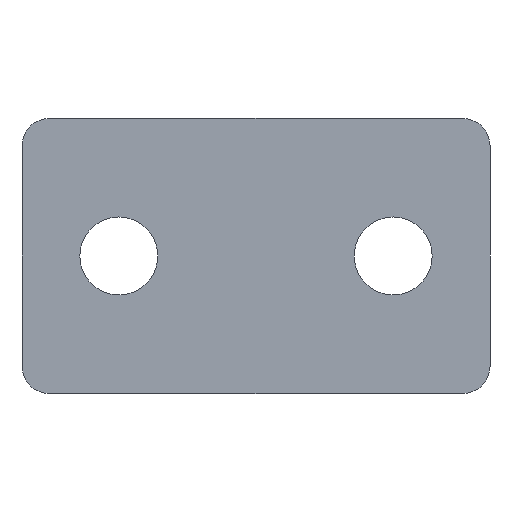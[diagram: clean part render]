
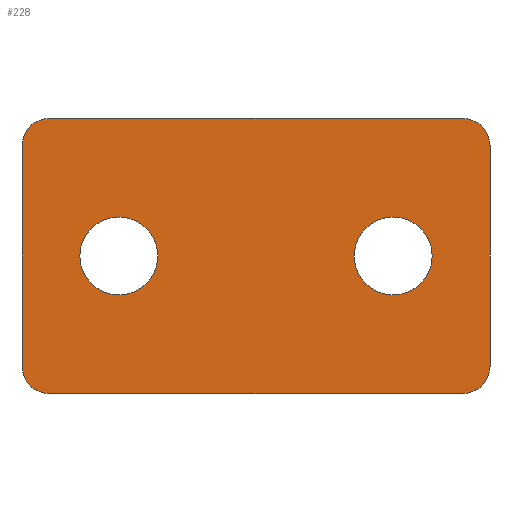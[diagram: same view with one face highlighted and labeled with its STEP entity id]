
A CAD part, front view. The second image highlights one B-rep face of the part: STEP entity #228.
In plain terms, the highlighted planar face has unit normal (0, -1, 0).
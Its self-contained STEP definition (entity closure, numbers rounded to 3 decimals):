
#17=FACE_BOUND('',#51,.T.);
#18=FACE_BOUND('',#52,.T.);
#24=PLANE('',#266);
#36=FACE_OUTER_BOUND('',#50,.T.);
#50=EDGE_LOOP('',(#201,#202,#203,#204,#205,#206,#207,#208));
#51=EDGE_LOOP('',(#209));
#52=EDGE_LOOP('',(#210));
#55=LINE('',#351,#73);
#60=LINE('',#365,#78);
#64=LINE('',#377,#82);
#68=LINE('',#389,#86);
#73=VECTOR('',#285,10.);
#78=VECTOR('',#298,10.);
#82=VECTOR('',#310,10.);
#86=VECTOR('',#322,10.);
#90=CIRCLE('',#245,4.25);
#92=CIRCLE('',#248,4.25);
#93=CIRCLE('',#251,3.);
#95=CIRCLE('',#255,3.);
#97=CIRCLE('',#259,3.);
#99=CIRCLE('',#263,3.);
#102=VERTEX_POINT('',#339);
#104=VERTEX_POINT('',#345);
#105=VERTEX_POINT('',#349);
#106=VERTEX_POINT('',#350);
#109=VERTEX_POINT('',#358);
#111=VERTEX_POINT('',#364);
#113=VERTEX_POINT('',#370);
#115=VERTEX_POINT('',#376);
#117=VERTEX_POINT('',#382);
#119=VERTEX_POINT('',#388);
#123=EDGE_CURVE('',#102,#102,#90,.T.);
#126=EDGE_CURVE('',#104,#104,#92,.T.);
#127=EDGE_CURVE('',#105,#106,#55,.T.);
#131=EDGE_CURVE('',#109,#106,#93,.T.);
#134=EDGE_CURVE('',#109,#111,#60,.T.);
#137=EDGE_CURVE('',#113,#111,#95,.T.);
#140=EDGE_CURVE('',#113,#115,#64,.T.);
#143=EDGE_CURVE('',#117,#115,#97,.T.);
#146=EDGE_CURVE('',#117,#119,#68,.T.);
#149=EDGE_CURVE('',#105,#119,#99,.T.);
#201=ORIENTED_EDGE('',*,*,#149,.F.);
#202=ORIENTED_EDGE('',*,*,#127,.T.);
#203=ORIENTED_EDGE('',*,*,#131,.F.);
#204=ORIENTED_EDGE('',*,*,#134,.T.);
#205=ORIENTED_EDGE('',*,*,#137,.F.);
#206=ORIENTED_EDGE('',*,*,#140,.T.);
#207=ORIENTED_EDGE('',*,*,#143,.F.);
#208=ORIENTED_EDGE('',*,*,#146,.T.);
#209=ORIENTED_EDGE('',*,*,#126,.F.);
#210=ORIENTED_EDGE('',*,*,#123,.F.);
#228=ADVANCED_FACE('',(#36,#17,#18),#24,.F.);
#245=AXIS2_PLACEMENT_3D('',#341,#274,#275);
#248=AXIS2_PLACEMENT_3D('',#347,#281,#282);
#251=AXIS2_PLACEMENT_3D('',#359,#291,#292);
#255=AXIS2_PLACEMENT_3D('',#371,#303,#304);
#259=AXIS2_PLACEMENT_3D('',#383,#315,#316);
#263=AXIS2_PLACEMENT_3D('',#394,#327,#328);
#266=AXIS2_PLACEMENT_3D('',#397,#333,#334);
#274=DIRECTION('center_axis',(0.,-1.,0.));
#275=DIRECTION('ref_axis',(1.,0.,0.));
#281=DIRECTION('center_axis',(0.,-1.,0.));
#282=DIRECTION('ref_axis',(1.,0.,0.));
#285=DIRECTION('',(0.,0.,1.));
#291=DIRECTION('center_axis',(0.,1.,0.));
#292=DIRECTION('ref_axis',(0.,0.,1.));
#298=DIRECTION('',(-1.,0.,0.));
#303=DIRECTION('center_axis',(0.,1.,0.));
#304=DIRECTION('ref_axis',(-1.,0.,0.));
#310=DIRECTION('',(0.,0.,-1.));
#315=DIRECTION('center_axis',(0.,1.,0.));
#316=DIRECTION('ref_axis',(0.,0.,-1.));
#322=DIRECTION('',(1.,0.,0.));
#327=DIRECTION('center_axis',(0.,1.,0.));
#328=DIRECTION('ref_axis',(1.,0.,0.));
#333=DIRECTION('center_axis',(0.,1.,0.));
#334=DIRECTION('ref_axis',(1.,0.,0.));
#339=CARTESIAN_POINT('',(6.3,0.,15.));
#341=CARTESIAN_POINT('Origin',(10.55,0.,15.));
#345=CARTESIAN_POINT('',(36.2,0.,15.));
#347=CARTESIAN_POINT('Origin',(40.45,0.,15.));
#349=CARTESIAN_POINT('',(51.,0.,3.));
#350=CARTESIAN_POINT('',(51.,0.,27.));
#351=CARTESIAN_POINT('',(51.,0.,3.));
#358=CARTESIAN_POINT('',(48.,0.,30.));
#359=CARTESIAN_POINT('Origin',(48.,0.,27.));
#364=CARTESIAN_POINT('',(3.,0.,30.));
#365=CARTESIAN_POINT('',(48.,0.,30.));
#370=CARTESIAN_POINT('',(0.,0.,27.));
#371=CARTESIAN_POINT('Origin',(3.,0.,27.));
#376=CARTESIAN_POINT('',(0.,0.,3.));
#377=CARTESIAN_POINT('',(0.,0.,27.));
#382=CARTESIAN_POINT('',(3.,0.,0.));
#383=CARTESIAN_POINT('Origin',(3.,0.,3.));
#388=CARTESIAN_POINT('',(48.,0.,0.));
#389=CARTESIAN_POINT('',(3.,0.,0.));
#394=CARTESIAN_POINT('Origin',(48.,0.,3.));
#397=CARTESIAN_POINT('Origin',(25.5,0.,15.));
